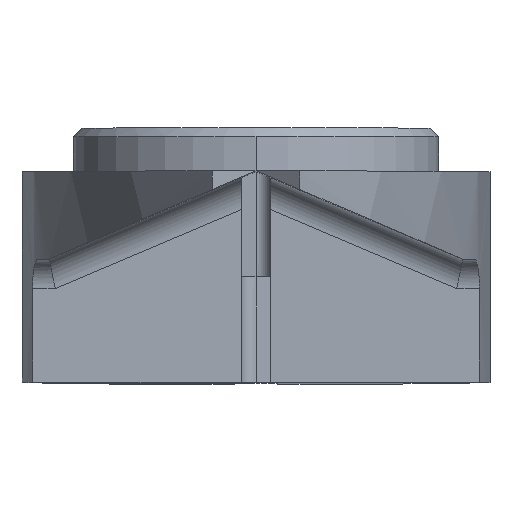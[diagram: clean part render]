
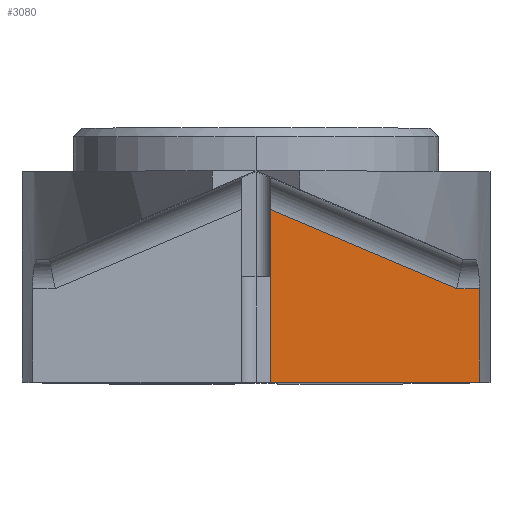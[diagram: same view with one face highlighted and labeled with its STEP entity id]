
A CAD part, top view. The second image highlights one B-rep face of the part: STEP entity #3080.
In plain terms, the highlighted planar face has unit normal (0, 0, 1).
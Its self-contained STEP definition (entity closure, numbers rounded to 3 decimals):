
#39 = EDGE_CURVE ( 'NONE', #812, #1595, #1327, .T. ) ;
#135 = EDGE_CURVE ( 'NONE', #812, #389, #2068, .T. ) ;
#210 = VECTOR ( 'NONE', #3749, 1000. ) ;
#389 = VERTEX_POINT ( 'NONE', #1653 ) ;
#453 = VERTEX_POINT ( 'NONE', #2486 ) ;
#642 = AXIS2_PLACEMENT_3D ( 'NONE', #3451, #654, #3777 ) ;
#654 = DIRECTION ( 'NONE',  ( 0., 0., 1. ) ) ;
#812 = VERTEX_POINT ( 'NONE', #2326 ) ;
#920 = ORIENTED_EDGE ( 'NONE', *, *, #1779, .T. ) ;
#1002 = DIRECTION ( 'NONE',  ( 0., -1., 0. ) ) ;
#1080 = CARTESIAN_POINT ( 'NONE',  ( 0.5, 2.968, 10. ) ) ;
#1081 = ORIENTED_EDGE ( 'NONE', *, *, #2461, .F. ) ;
#1110 = CARTESIAN_POINT ( 'NONE',  ( 4.069, 3.2, 10. ) ) ;
#1327 = LINE ( 'NONE', #1110, #2873 ) ;
#1331 = EDGE_LOOP ( 'NONE', ( #1081, #2758, #2252, #2641, #920 ) ) ;
#1408 = DIRECTION ( 'NONE',  ( -1., 0., 0. ) ) ;
#1438 = FACE_OUTER_BOUND ( 'NONE', #1331, .T. ) ;
#1444 = EDGE_CURVE ( 'NONE', #1595, #1721, #2311, .T. ) ;
#1595 = VERTEX_POINT ( 'NONE', #2527 ) ;
#1629 = CARTESIAN_POINT ( 'NONE',  ( 7.638, 3.6, 10. ) ) ;
#1653 = CARTESIAN_POINT ( 'NONE',  ( 7.638, 0., 10. ) ) ;
#1721 = VERTEX_POINT ( 'NONE', #1743 ) ;
#1743 = CARTESIAN_POINT ( 'NONE',  ( 0.5, 5.901, 10. ) ) ;
#1779 = EDGE_CURVE ( 'NONE', #1721, #453, #2989, .T. ) ;
#2068 = LINE ( 'NONE', #1629, #210 ) ;
#2083 = VECTOR ( 'NONE', #1002, 1000. ) ;
#2100 = DIRECTION ( 'NONE',  ( -1., 0., 0. ) ) ;
#2252 = ORIENTED_EDGE ( 'NONE', *, *, #39, .T. ) ;
#2260 = LINE ( 'NONE', #3321, #2988 ) ;
#2311 = LINE ( 'NONE', #2547, #3959 ) ;
#2326 = CARTESIAN_POINT ( 'NONE',  ( 7.638, 3.2, 10. ) ) ;
#2370 = DIRECTION ( 'NONE',  ( -0.921, 0.391, 0. ) ) ;
#2461 = EDGE_CURVE ( 'NONE', #389, #453, #2260, .T. ) ;
#2486 = CARTESIAN_POINT ( 'NONE',  ( 0.5, 0., 10. ) ) ;
#2527 = CARTESIAN_POINT ( 'NONE',  ( 6.864, 3.2, 10. ) ) ;
#2547 = CARTESIAN_POINT ( 'NONE',  ( 6.864, 3.2, 10. ) ) ;
#2641 = ORIENTED_EDGE ( 'NONE', *, *, #1444, .T. ) ;
#2758 = ORIENTED_EDGE ( 'NONE', *, *, #135, .F. ) ;
#2873 = VECTOR ( 'NONE', #1408, 1000. ) ;
#2988 = VECTOR ( 'NONE', #2100, 1000. ) ;
#2989 = LINE ( 'NONE', #1080, #2083 ) ;
#3080 = ADVANCED_FACE ( 'NONE', ( #1438 ), #3145, .T. ) ;
#3145 = PLANE ( 'NONE',  #642 ) ;
#3321 = CARTESIAN_POINT ( 'NONE',  ( 4.227, 0., 10. ) ) ;
#3451 = CARTESIAN_POINT ( 'NONE',  ( 0.5, 0., 10. ) ) ;
#3749 = DIRECTION ( 'NONE',  ( 0., -1., 0. ) ) ;
#3777 = DIRECTION ( 'NONE',  ( 1., 0., 0. ) ) ;
#3959 = VECTOR ( 'NONE', #2370, 1000. ) ;
